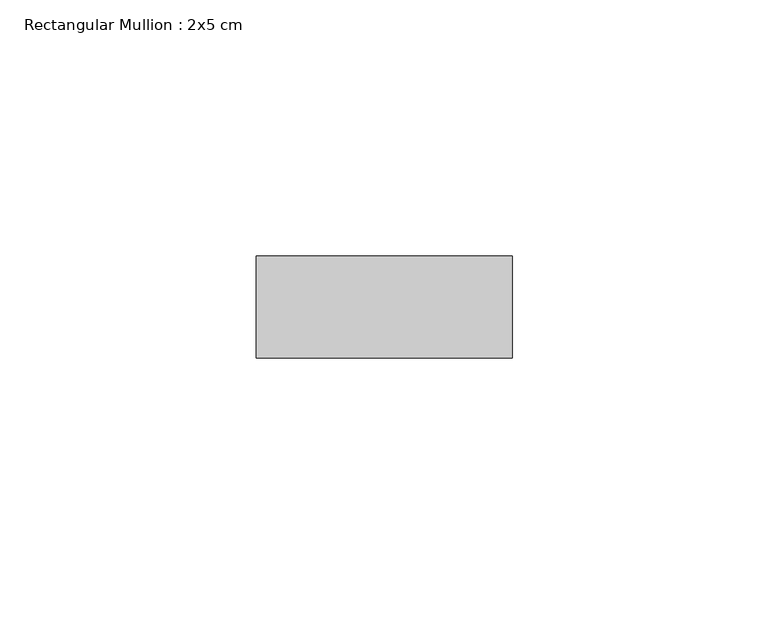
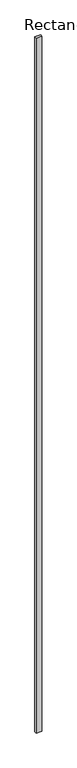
"""IFC4 building model written with IfcOpenShell, lengths in millimetres: member geometry, Rectangular Mullion : 2x5 cm."""

from ifc_helpers import new_model, si_unit, frame, origin, place, context, project, spatial, polyline, outline, extrude, source, transform, mapped, element, save


def rectangular_mullion_2x5_cm_6a1986a8(model_context):
    return source(origin(), model_context, "Body", "SweptSolid", [
        extrude(outline(polyline([(50.0, 20.0), (50.0, 0.0), (0.0, 0.0), (0.0, 20.0), (50.0, 20.0)])), frame((0.0, 0.0, -6399.9526954), z_axis=(0.0, 0.0, 1.0), x_axis=(1.0, 0.0, 0.0)), (0.0, 0.0, 1.0), 6399.9526954),
    ])


if __name__ == "__main__":
    model = new_model("IFC4")
    model_context = context("Model", 3, world=origin())
    ifc_project = project(units=[si_unit("LENGTHUNIT", "METRE", prefix="MILLI")], contexts=[model_context])
    site = spatial("IfcSite", under=ifc_project)
    building = spatial("IfcBuilding", under=site)
    placement = place(None, origin())
    rectangular_mullion_2x5_cm_shape = rectangular_mullion_2x5_cm_6a1986a8(model_context)
    element("IfcMember", 1, ObjectType="Rectangular Mullion : 2x5 cm", at=placement, inside=building, context=model_context, shape_type="MappedRepresentation", body=[
        mapped(rectangular_mullion_2x5_cm_shape, transform((0.0, 0.0, 0.0), x_axis=(1.0, 0.0, 0.0), y_axis=(0.0, 1.0, 0.0), z_axis=(0.0, 0.0, 1.0))),
    ])
    save(model, "model.ifc")
